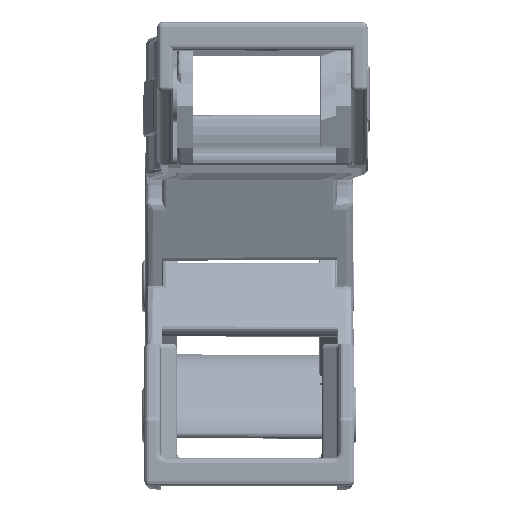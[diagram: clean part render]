
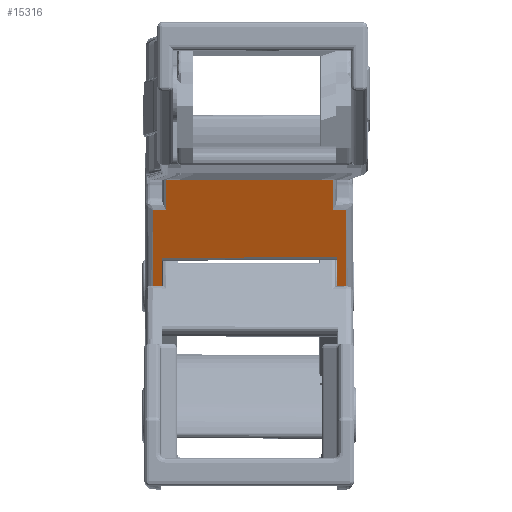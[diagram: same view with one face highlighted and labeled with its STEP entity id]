
A CAD part, top view. The second image highlights one B-rep face of the part: STEP entity #15316.
In plain terms, the highlighted planar face has unit normal (0.007, -0.375, 0.927).
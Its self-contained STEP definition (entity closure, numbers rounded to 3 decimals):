
#8577=FACE_OUTER_BOUND('',#26546,.T.);
#15316=ADVANCED_FACE('',(#8577),#20950,.T.);
#20950=PLANE('',#127017);
#26546=EDGE_LOOP('',(#62714,#62715,#62716,#62717,#62718,#62719,#62720,#62721,
#62722,#62723,#62724,#62725,#62726,#62727,#62728,#62729));
#34828=LINE('',#198018,#44279);
#34854=LINE('',#198177,#44305);
#34892=LINE('',#198272,#44343);
#34893=LINE('',#198273,#44344);
#34894=LINE('',#198275,#44345);
#34895=LINE('',#198277,#44346);
#34896=LINE('',#198279,#44347);
#34897=LINE('',#198281,#44348);
#34898=LINE('',#198283,#44349);
#34899=LINE('',#198285,#44350);
#34900=LINE('',#198287,#44351);
#34901=LINE('',#198289,#44352);
#34902=LINE('',#198291,#44353);
#34903=LINE('',#198293,#44354);
#34904=LINE('',#198295,#44355);
#34905=LINE('',#198297,#44356);
#44279=VECTOR('',#147889,1.);
#44305=VECTOR('',#147973,1.);
#44343=VECTOR('',#148063,1.);
#44344=VECTOR('',#148064,1.);
#44345=VECTOR('',#148065,1.);
#44346=VECTOR('',#148066,1.);
#44347=VECTOR('',#148067,1.);
#44348=VECTOR('',#148068,1.);
#44349=VECTOR('',#148069,1.);
#44350=VECTOR('',#148070,1.);
#44351=VECTOR('',#148071,1.);
#44352=VECTOR('',#148072,1.);
#44353=VECTOR('',#148073,1.);
#44354=VECTOR('',#148074,1.);
#44355=VECTOR('',#148075,1.);
#44356=VECTOR('',#148076,1.);
#62714=ORIENTED_EDGE('',*,*,#103983,.F.);
#62715=ORIENTED_EDGE('',*,*,#104033,.F.);
#62716=ORIENTED_EDGE('',*,*,#103930,.T.);
#62717=ORIENTED_EDGE('',*,*,#104034,.T.);
#62718=ORIENTED_EDGE('',*,*,#104035,.T.);
#62719=ORIENTED_EDGE('',*,*,#104036,.F.);
#62720=ORIENTED_EDGE('',*,*,#104037,.T.);
#62721=ORIENTED_EDGE('',*,*,#104038,.F.);
#62722=ORIENTED_EDGE('',*,*,#104039,.T.);
#62723=ORIENTED_EDGE('',*,*,#104040,.T.);
#62724=ORIENTED_EDGE('',*,*,#104041,.F.);
#62725=ORIENTED_EDGE('',*,*,#104042,.T.);
#62726=ORIENTED_EDGE('',*,*,#104043,.F.);
#62727=ORIENTED_EDGE('',*,*,#104044,.F.);
#62728=ORIENTED_EDGE('',*,*,#104045,.T.);
#62729=ORIENTED_EDGE('',*,*,#104046,.F.);
#90349=VERTEX_POINT('',#198017);
#90350=VERTEX_POINT('',#198019);
#90400=VERTEX_POINT('',#198176);
#90401=VERTEX_POINT('',#198178);
#90432=VERTEX_POINT('',#198274);
#90433=VERTEX_POINT('',#198276);
#90434=VERTEX_POINT('',#198278);
#90435=VERTEX_POINT('',#198280);
#90436=VERTEX_POINT('',#198282);
#90437=VERTEX_POINT('',#198284);
#90438=VERTEX_POINT('',#198286);
#90439=VERTEX_POINT('',#198288);
#90440=VERTEX_POINT('',#198290);
#90441=VERTEX_POINT('',#198292);
#90442=VERTEX_POINT('',#198294);
#90443=VERTEX_POINT('',#198296);
#103930=EDGE_CURVE('',#90350,#90349,#34828,.T.);
#103983=EDGE_CURVE('',#90400,#90401,#34854,.T.);
#104033=EDGE_CURVE('',#90350,#90400,#34892,.T.);
#104034=EDGE_CURVE('',#90349,#90432,#34893,.T.);
#104035=EDGE_CURVE('',#90432,#90433,#34894,.T.);
#104036=EDGE_CURVE('',#90434,#90433,#34895,.T.);
#104037=EDGE_CURVE('',#90434,#90435,#34896,.T.);
#104038=EDGE_CURVE('',#90436,#90435,#34897,.T.);
#104039=EDGE_CURVE('',#90436,#90437,#34898,.T.);
#104040=EDGE_CURVE('',#90437,#90438,#34899,.T.);
#104041=EDGE_CURVE('',#90439,#90438,#34900,.T.);
#104042=EDGE_CURVE('',#90439,#90440,#34901,.T.);
#104043=EDGE_CURVE('',#90441,#90440,#34902,.T.);
#104044=EDGE_CURVE('',#90442,#90441,#34903,.T.);
#104045=EDGE_CURVE('',#90442,#90443,#34904,.T.);
#104046=EDGE_CURVE('',#90401,#90443,#34905,.T.);
#127017=AXIS2_PLACEMENT_3D('',#198298,#148077,#148078);
#147889=DIRECTION('',(0.,0.927,0.375));
#147973=DIRECTION('',(0.,0.927,0.375));
#148063=DIRECTION('',(1.,0.003,-0.006));
#148064=DIRECTION('',(-1.,-0.003,0.006));
#148065=DIRECTION('',(0.,-0.927,-0.375));
#148066=DIRECTION('',(1.,0.003,-0.006));
#148067=DIRECTION('',(0.,-0.927,-0.375));
#148068=DIRECTION('',(-1.,-0.003,0.006));
#148069=DIRECTION('',(0.,0.927,0.375));
#148070=DIRECTION('',(1.,0.003,-0.006));
#148071=DIRECTION('',(0.,0.927,0.375));
#148072=DIRECTION('',(1.,0.003,-0.006));
#148073=DIRECTION('',(0.,-0.927,-0.375));
#148074=DIRECTION('',(1.,0.003,-0.006));
#148075=DIRECTION('',(0.,0.927,0.375));
#148076=DIRECTION('',(1.,0.003,-0.006));
#148077=DIRECTION('',(0.007,-0.375,0.927));
#148078=DIRECTION('',(0.,0.927,0.375));
#198017=CARTESIAN_POINT('',(42.34,-789.129,171.694));
#198018=CARTESIAN_POINT('',(42.34,-794.775,169.408));
#198019=CARTESIAN_POINT('',(42.34,-794.775,169.408));
#198176=CARTESIAN_POINT('',(57.561,-794.737,169.313));
#198177=CARTESIAN_POINT('',(57.561,-794.737,169.313));
#198178=CARTESIAN_POINT('',(57.561,-789.09,171.599));
#198272=CARTESIAN_POINT('',(42.34,-794.775,169.408));
#198273=CARTESIAN_POINT('',(42.34,-789.129,171.694));
#198274=CARTESIAN_POINT('',(41.083,-789.132,171.702));
#198275=CARTESIAN_POINT('',(41.083,-789.132,171.702));
#198276=CARTESIAN_POINT('',(41.083,-798.275,168.));
#198277=CARTESIAN_POINT('',(39.674,-798.279,168.009));
#198278=CARTESIAN_POINT('',(39.674,-798.279,168.009));
#198279=CARTESIAN_POINT('',(39.674,-798.279,168.009));
#198280=CARTESIAN_POINT('',(39.674,-810.028,163.252));
#198281=CARTESIAN_POINT('',(40.58,-810.025,163.246));
#198282=CARTESIAN_POINT('',(40.58,-810.025,163.246));
#198283=CARTESIAN_POINT('',(40.58,-810.025,163.246));
#198284=CARTESIAN_POINT('',(40.58,-803.358,165.946));
#198285=CARTESIAN_POINT('',(40.58,-803.358,165.946));
#198286=CARTESIAN_POINT('',(59.321,-803.311,165.829));
#198287=CARTESIAN_POINT('',(59.321,-809.978,163.129));
#198288=CARTESIAN_POINT('',(59.321,-809.978,163.129));
#198289=CARTESIAN_POINT('',(59.321,-809.978,163.129));
#198290=CARTESIAN_POINT('',(60.226,-809.976,163.123));
#198291=CARTESIAN_POINT('',(60.226,-798.227,167.881));
#198292=CARTESIAN_POINT('',(60.226,-798.227,167.881));
#198293=CARTESIAN_POINT('',(58.818,-798.23,167.889));
#198294=CARTESIAN_POINT('',(58.818,-798.23,167.889));
#198295=CARTESIAN_POINT('',(58.818,-788.986,171.632));
#198296=CARTESIAN_POINT('',(58.818,-789.087,171.591));
#198297=CARTESIAN_POINT('',(57.561,-789.09,171.599));
#198298=CARTESIAN_POINT('',(62.56,-809.97,163.109));
